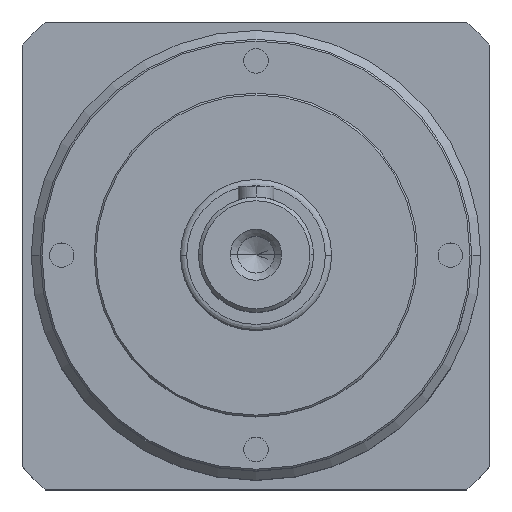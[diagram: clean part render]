
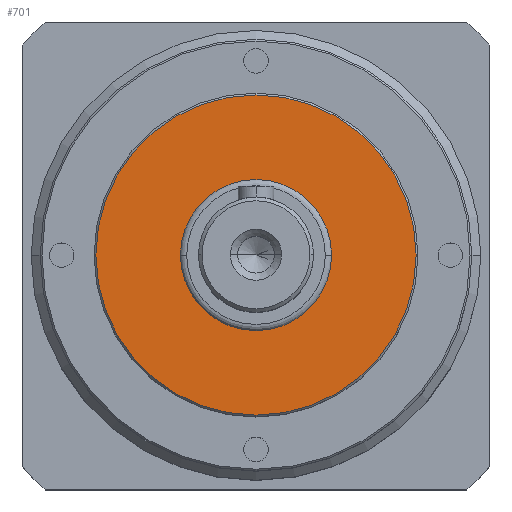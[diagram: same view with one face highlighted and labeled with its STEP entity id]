
A CAD part, top view. The second image highlights one B-rep face of the part: STEP entity #701.
In plain terms, the highlighted planar face has unit normal (0, 0, 1).
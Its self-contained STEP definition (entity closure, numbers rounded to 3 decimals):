
#168 = CARTESIAN_POINT ( 'NONE',  ( 0., 0., 40. ) ) ;
#390 = AXIS2_PLACEMENT_3D ( 'NONE', #3646, #4429, #3668 ) ;
#543 = CARTESIAN_POINT ( 'NONE',  ( -44.5, 0., 40. ) ) ;
#621 = FACE_OUTER_BOUND ( 'NONE', #2544, .T. ) ;
#701 = ADVANCED_FACE ( 'NONE', ( #1179, #621 ), #4466, .T. ) ;
#739 = CIRCLE ( 'NONE', #3870, 21. ) ;
#812 = CARTESIAN_POINT ( 'NONE',  ( 44.5, 0., 40. ) ) ;
#825 = ORIENTED_EDGE ( 'NONE', *, *, #3207, .F. ) ;
#843 = DIRECTION ( 'NONE',  ( 0., 0., 1. ) ) ;
#910 = ORIENTED_EDGE ( 'NONE', *, *, #3707, .T. ) ;
#1177 = DIRECTION ( 'NONE',  ( 1., 0., 0. ) ) ;
#1179 = FACE_BOUND ( 'NONE', #5023, .T. ) ;
#1222 = EDGE_CURVE ( 'NONE', #4388, #4232, #739, .T. ) ;
#1381 = AXIS2_PLACEMENT_3D ( 'NONE', #4094, #2042, #2936 ) ;
#1446 = CARTESIAN_POINT ( 'NONE',  ( -21., 0., 40. ) ) ;
#2037 = VERTEX_POINT ( 'NONE', #543 ) ;
#2042 = DIRECTION ( 'NONE',  ( 0., 0., 1. ) ) ;
#2070 = CARTESIAN_POINT ( 'NONE',  ( 0., 0., 40. ) ) ;
#2102 = CIRCLE ( 'NONE', #390, 44.5 ) ;
#2158 = DIRECTION ( 'NONE',  ( 1., 0., 0. ) ) ;
#2209 = CIRCLE ( 'NONE', #2465, 44.5 ) ;
#2450 = CARTESIAN_POINT ( 'NONE',  ( 0., 0., 40. ) ) ;
#2465 = AXIS2_PLACEMENT_3D ( 'NONE', #2070, #4162, #4975 ) ;
#2541 = VERTEX_POINT ( 'NONE', #812 ) ;
#2544 = EDGE_LOOP ( 'NONE', ( #4635, #910 ) ) ;
#2936 = DIRECTION ( 'NONE',  ( 1., 0., 0. ) ) ;
#3067 = EDGE_CURVE ( 'NONE', #2037, #2541, #2102, .T. ) ;
#3207 = EDGE_CURVE ( 'NONE', #4232, #4388, #4841, .T. ) ;
#3350 = CARTESIAN_POINT ( 'NONE',  ( 21., 0., 40. ) ) ;
#3643 = AXIS2_PLACEMENT_3D ( 'NONE', #2450, #843, #1177 ) ;
#3646 = CARTESIAN_POINT ( 'NONE',  ( 0., 0., 40. ) ) ;
#3668 = DIRECTION ( 'NONE',  ( 1., 0., 0. ) ) ;
#3707 = EDGE_CURVE ( 'NONE', #2541, #2037, #2209, .T. ) ;
#3870 = AXIS2_PLACEMENT_3D ( 'NONE', #168, #5063, #2158 ) ;
#4094 = CARTESIAN_POINT ( 'NONE',  ( 0., 0., 40. ) ) ;
#4162 = DIRECTION ( 'NONE',  ( 0., 0., 1. ) ) ;
#4232 = VERTEX_POINT ( 'NONE', #3350 ) ;
#4322 = ORIENTED_EDGE ( 'NONE', *, *, #1222, .F. ) ;
#4388 = VERTEX_POINT ( 'NONE', #1446 ) ;
#4429 = DIRECTION ( 'NONE',  ( 0., 0., 1. ) ) ;
#4466 = PLANE ( 'NONE',  #3643 ) ;
#4635 = ORIENTED_EDGE ( 'NONE', *, *, #3067, .T. ) ;
#4841 = CIRCLE ( 'NONE', #1381, 21. ) ;
#4975 = DIRECTION ( 'NONE',  ( 1., 0., 0. ) ) ;
#5023 = EDGE_LOOP ( 'NONE', ( #4322, #825 ) ) ;
#5063 = DIRECTION ( 'NONE',  ( 0., 0., 1. ) ) ;
